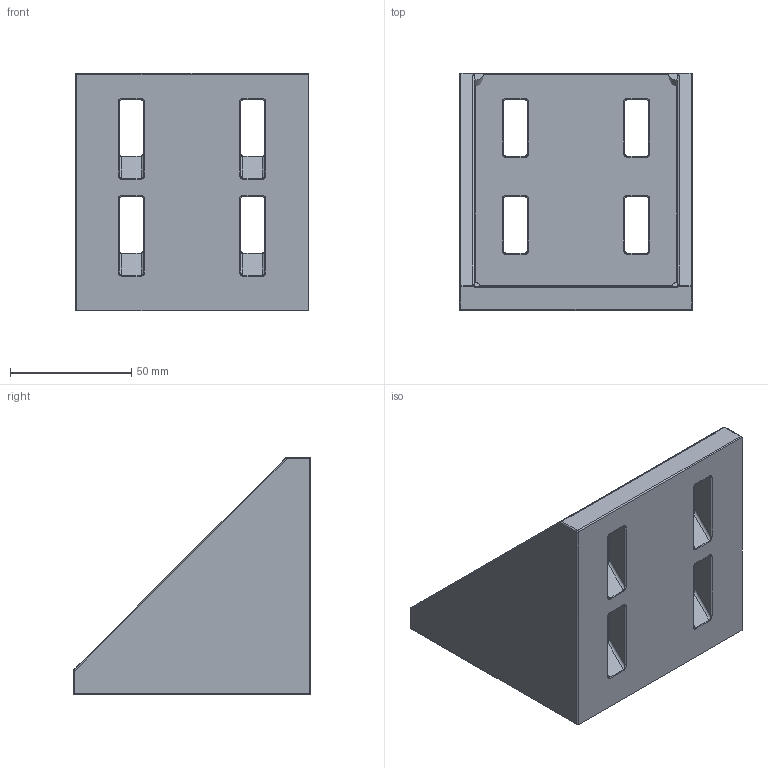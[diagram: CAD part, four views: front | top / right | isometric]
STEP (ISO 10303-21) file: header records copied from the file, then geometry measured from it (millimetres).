
FILE_DESCRIPTION (( 'STEP AP203' ), '1' );
FILE_NAME ('1079.STEP', '2016-03-27T14:35:47', ( '' ), ( '' ), 'SwSTEP 2.0', 'SolidWorks 2014', '' );
FILE_SCHEMA (( 'CONFIG_CONTROL_DESIGN' ));
Length unit declared in the file: millimetre
Products named in the file (1): 1079
Bounding box: 96 x 98 x 98 mm (x, y, z)
Volume: 203193.5 mm3; surface area: 57702.3 mm2
Topology: 5 solids, 5 shells, 271 faces, 616 edges, 347 vertices
Faces by surface type: cylinder 127, plane 60, torus 36, bspline 36, sphere 12
Entity records: 8523 total; most frequent: CARTESIAN_POINT 2616, DIRECTION 1265, ORIENTED_EDGE 1216, EDGE_CURVE 608, AXIS2_PLACEMENT_3D 496, VERTEX_POINT 347, EDGE_LOOP 287, VECTOR 273
